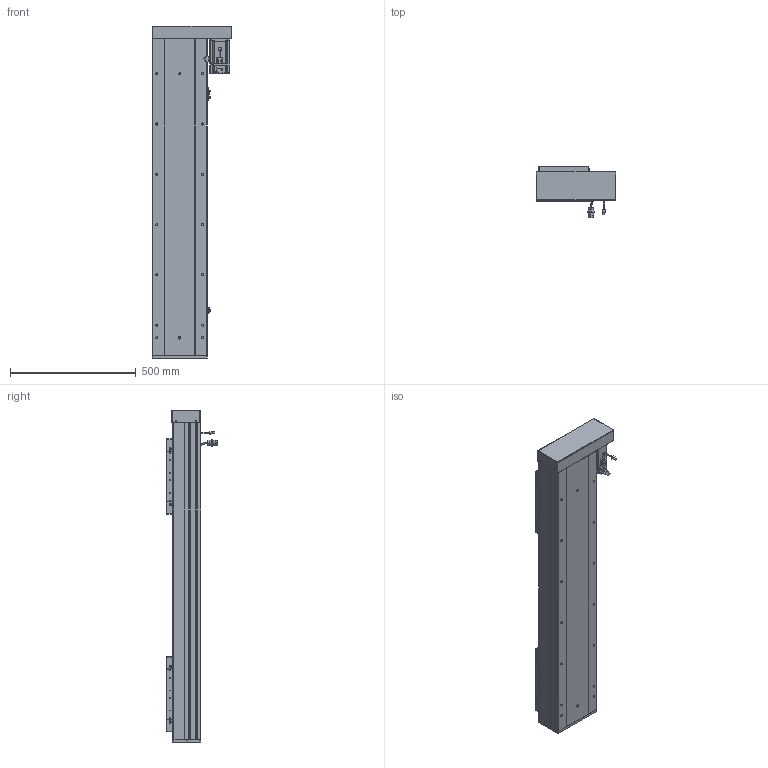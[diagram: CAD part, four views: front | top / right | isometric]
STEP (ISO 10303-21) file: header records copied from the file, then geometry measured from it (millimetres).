
FILE_DESCRIPTION (( 'STEP AP203' ), '1' );
FILE_NAME ('RY220F-L2525-300-RK.SLDASM_850.step', '2022-07-04T01:35:13', ( '' ), ( '' ), 'SwSTEP 2.0', 'SolidWorks 2016', '' );
FILE_SCHEMA (( 'CONFIG_CONTROL_DESIGN' ));
Length unit declared in the file: millimetre
Products named in the file (15): RY220F-L2525-300-RK.SLDASM_850; RY220F綴裔啣; RY220F-蛌殏奻裔啣-300_850; 滅袉蝶18-24; RY220F-詩湍揤踡輸; RY220F-672覜茼んえ; 侐源滅袉蝶; RY220F-祥凄詩湍-蛌殏-300_850; RY220F蛌殏菁釱-300_850; RY220F臏賑釱25-32佪裝; 覜茼ん672; RY220酘衵殏萇儂欶; RY220左右折电机安装板; 怢湛750W_ECMA-CX0807ES; RY220F-滅鳥奻裔
Assembly tree (24 placements, depth 2):
  RY220F-L2525-300-RK.SLDASM_850
    RY220F蛌殏菁釱-300_850
    RY220F-蛌殏奻裔啣-300_850  x2
    怢湛750W_ECMA-CX0807ES
    RY220F臏賑釱25-32佪裝  x2
    RY220F-滅鳥奻裔  x2
    滅袉蝶18-24  x3
    RY220F綴裔啣
    RY220F-祥凄詩湍-蛌殏-300_850
    RY220F-詩湍揤踡輸  x2
    覜茼ん672  x3
    RY220F-672覜茼んえ  x2
    RY220左右折电机安装板
    RY220酘衵殏萇儂欶
    侐源滅袉蝶  x2
Bounding box: 317.5 x 205.27 x 1321 mm (x, y, z)
Volume: 13461377.9 mm3; surface area: 3494912.6 mm2
Topology: 25 solids, 25 shells, 2712 faces, 7388 edges, 4588 vertices
Faces by surface type: cylinder 1218, plane 1044, cone 379, bspline 45, sphere 16, torus 10
Entity records: 67188 total; most frequent: CARTESIAN_POINT 18401, ORIENTED_EDGE 9878, DIRECTION 9544, EDGE_CURVE 4939, AXIS2_PLACEMENT_3D 3382, VERTEX_POINT 3204, LINE 2780, VECTOR 2780
